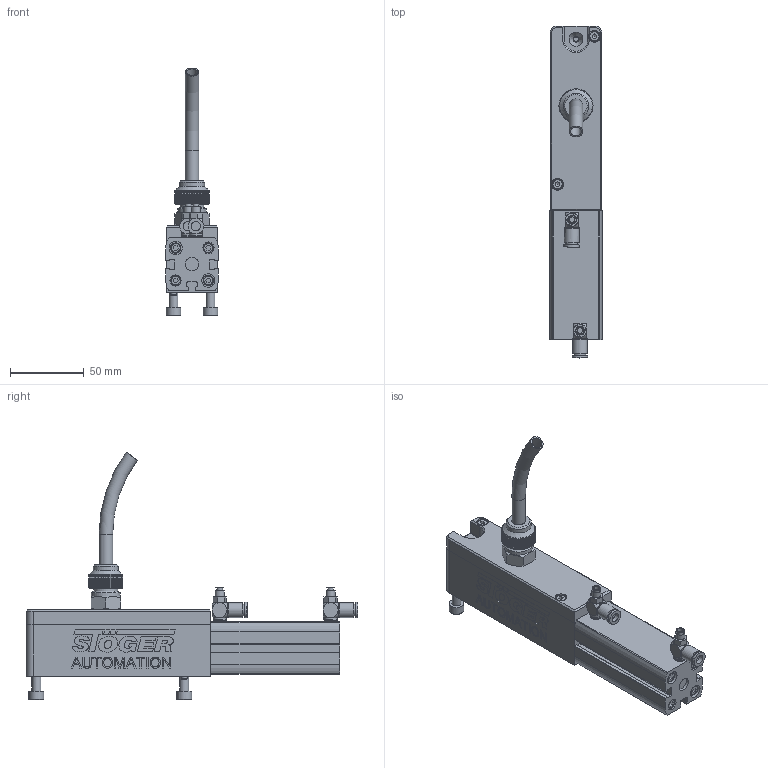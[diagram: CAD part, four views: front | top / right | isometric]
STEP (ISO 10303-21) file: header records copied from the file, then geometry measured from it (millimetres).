
FILE_DESCRIPTION(/* description */ ('© Copyright 2019 – Urheberrechtshinweis Diese CAD-Daten sind urheberrechtlich geschützt. Das Urheberrecht liegt, soweit nicht ausdrücklich anders gekennzeichnet, bei Stöger Automation GmbH. Bitte fragen Sie uns, falls Sie die CAD-Daten vervielfältigen od','CAx-IF Rec.Pracs.---Representation and Presentation of Product Manufacturing Information (PMI)---4.0---2014-10-13'),/* implementation_level */ '2;1');
FILE_NAME(/* name */ 'N:\01_Projekte\01_03_Projekte\1066\1066_09_Fotos\Komponenten\04_ext.Bereitstellungseinheit\3D_Step_file_external_supply_unit_for_screws.stp',/* time_stamp */ '2020-03-23T17:28:46+01:00',/* author */ ('Stöger Automation GmbH'),/* organization */ ('Stöger Automation GmbH'),/* preprocessor_version */ 'ST-DEVELOPER v17',/* originating_system */ 'Autodesk Inventor 2018',/* authorisation */ '');
FILE_SCHEMA (('AP242_MANAGED_MODEL_BASED_3D_ENGINEERING_MIM_LF { 1 0 10303 442 1 1 4 }'));
Length unit declared in the file: millimetre
Products named in the file (1): MKTVER021700010301.ipt
Bounding box: 35.5 x 224.5 x 167.68 mm (x, y, z)
Volume: 274407.7 mm3; surface area: 98808.6 mm2
Topology: 25 solids, 25 shells, 1148 faces, 2946 edges, 1923 vertices
Faces by surface type: plane 691, cylinder 268, cone 136, bspline 26, torus 17, sphere 10
Full cylindrical faces by diameter (mm): 3.242 x6, 3.4 x1, 3.8 x2, 4 x12, 4.01 x4, 4.03 x2, 4.134 x6, 4.3 x2, 4.917 x4, 5 x2, 6 x5, 6.1 x2, 6.5 x1, 7 x6, 7.2 x1, 7.8 x6, 8 x2, 8.5 x2, 9 x7, 9.2 x3, 10 x6, 10.5 x2, 13.5 x1, 14.5 x1, 14.8 x1, 14.918 x1, 16 x1, 16.2 x1, 17 x2, 18 x1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
Entity records: 35852 total; most frequent: CARTESIAN_POINT 7023, ORIENTED_EDGE 5858, DIRECTION 5777, EDGE_CURVE 2929, AXIS2_PLACEMENT_3D 2059, VERTEX_POINT 1923, LINE 1659, VECTOR 1659
